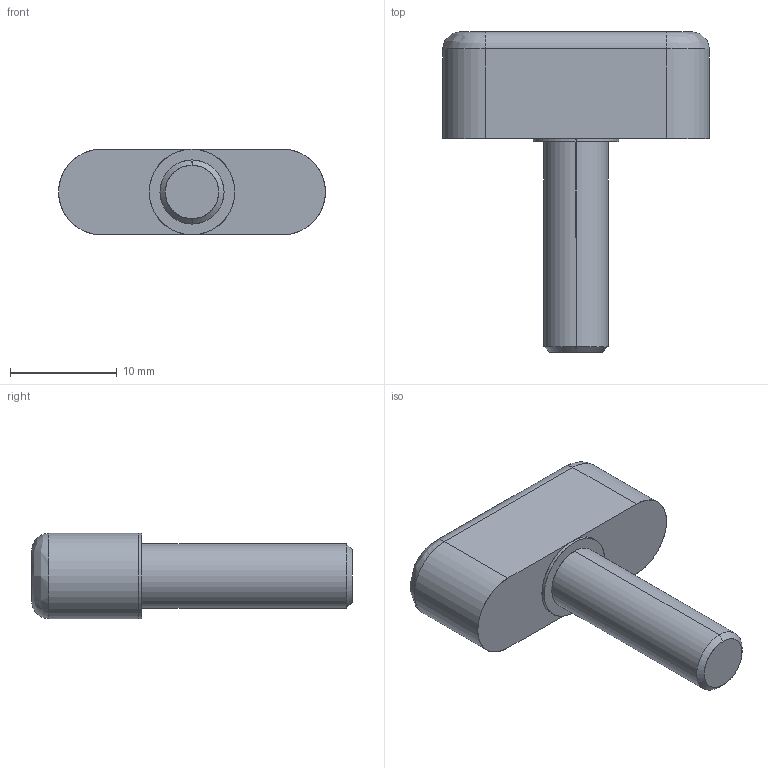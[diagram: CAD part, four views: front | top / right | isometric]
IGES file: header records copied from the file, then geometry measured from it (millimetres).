
Start section: SolidWorks IGES file using analytic representation for surfaces
Global section: file name: C:\Documents and Settings\IanO.IANOHOME\My Documents\Wix and Auto CAD Work\CAD Models\Parametric Models\Wix Models\3738\3738_IGES\3738.W062.igs; native system: SolidWorks 2009; preprocessor: SolidWorks 2009; author: IanO; date: 091209.215655; units: millimetre
Bounding box: 25 x 30 x 8 mm (x, y, z)
Surface area: 1295.1 mm2 (no closed solid volume)
Topology: 0 solids, 0 shells, 19 faces, 256 edges, 256 vertices
Faces by surface type: revolution 10, bspline 9
